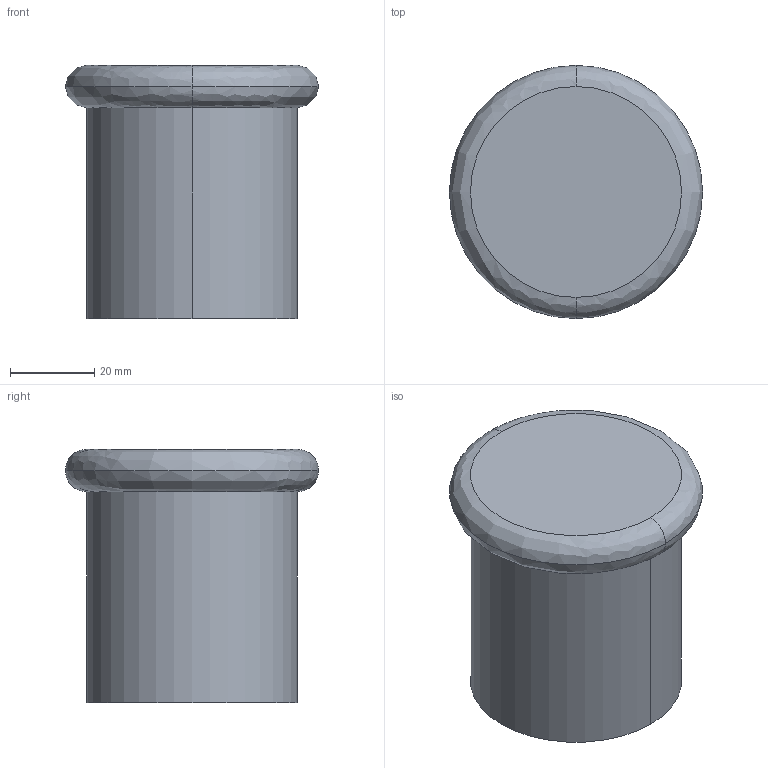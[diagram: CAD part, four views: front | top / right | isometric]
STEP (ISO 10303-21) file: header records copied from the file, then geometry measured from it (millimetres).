
FILE_DESCRIPTION (( 'STEP AP214' ), '1' );
FILE_NAME ('Gewuerzstreuer_68313.STEP', '2010-10-27T05:40:31', ( 'grass' ), ( '' ), 'SwSTEP 2.0', 'SolidWorks 2010', '' );
FILE_SCHEMA (( 'AUTOMOTIVE_DESIGN' ));
Length unit declared in the file: millimetre
Products named in the file (1): Gewuerzstreuer_68313
Bounding box: 60 x 60 x 60 mm (x, y, z)
Volume: 124501.8 mm3; surface area: 14562.5 mm2
Topology: 1 solids, 1 shells, 8 faces, 14 edges, 8 vertices
Faces by surface type: bspline 4, cylinder 2, plane 2
Entity records: 364 total; most frequent: CARTESIAN_POINT 91, DIRECTION 36, ORIENTED_EDGE 28, AXIS2_PLACEMENT_3D 17, EDGE_CURVE 14, CIRCLE 12, UNCERTAINTY_MEASURE_WITH_UNIT 11, PRESENTATION_LAYER_ASSIGNMENT 10
